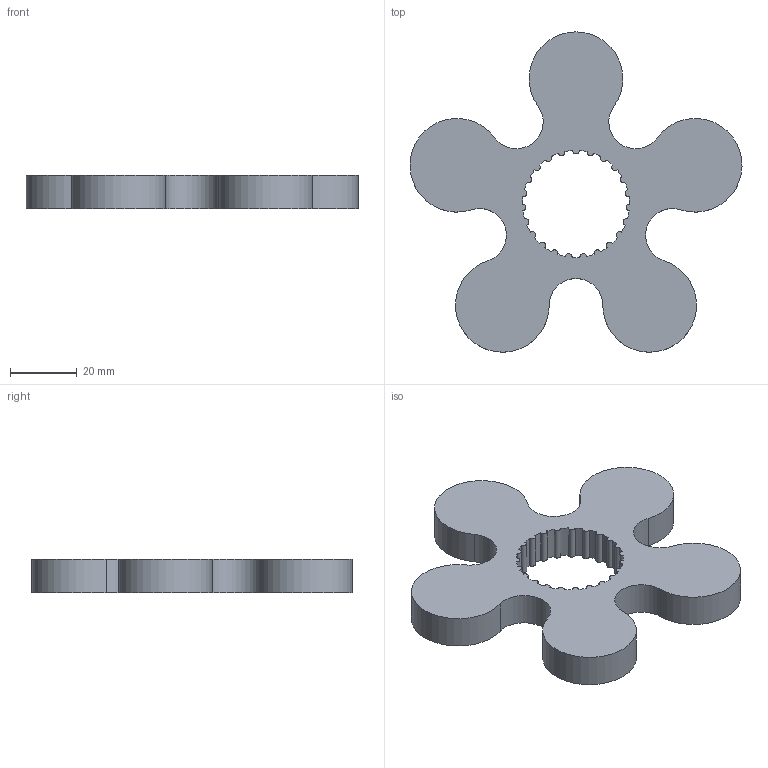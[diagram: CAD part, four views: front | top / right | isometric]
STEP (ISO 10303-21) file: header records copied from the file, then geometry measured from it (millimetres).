
FILE_DESCRIPTION(/* description */ (''),/* implementation_level */ '2;1');
FILE_NAME(/* name */ '',/* time_stamp */ '2026-04-10T14:23:49+02:00',/* author */ (''),/* organization */ (''),/* preprocessor_version */ 'ST-DEVELOPER v20.1',/* originating_system */ 'Autodesk Translation Framework v14.24.0.0',/* authorisation */ '');
FILE_SCHEMA (('AUTOMOTIVE_DESIGN { 1 0 10303 214 3 1 1 }'));
Length unit declared in the file: millimetre
Products named in the file (1): (Niezapisany)
Bounding box: 99.19 x 95.69 x 10 mm (x, y, z)
Volume: 42147.2 mm3; surface area: 14018.3 mm2
Topology: 1 solids, 1 shells, 58 faces, 168 edges, 112 vertices
Faces by surface type: cylinder 56, plane 2
Entity records: 2021 total; most frequent: DIRECTION 398, CARTESIAN_POINT 339, ORIENTED_EDGE 336, AXIS2_PLACEMENT_3D 171, EDGE_CURVE 168, CIRCLE 112, VERTEX_POINT 112, EDGE_LOOP 60
